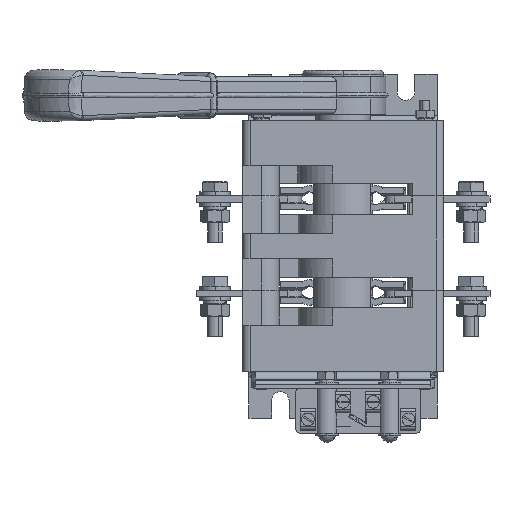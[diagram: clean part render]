
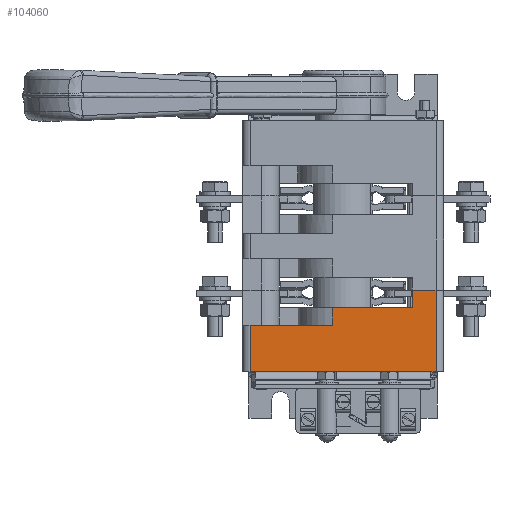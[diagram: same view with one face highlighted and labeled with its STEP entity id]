
A CAD part, left-side view. The second image highlights one B-rep face of the part: STEP entity #104060.
In plain terms, the highlighted planar face has unit normal (-1, 0, 0).
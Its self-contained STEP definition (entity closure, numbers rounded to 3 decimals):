
#103674 = CARTESIAN_POINT ( 'NONE',  ( -17.5, -37., 32.5 ) ) ;
#103738 = EDGE_LOOP ( 'NONE', ( #105353, #104031, #104077, #103782, #104084, #103879, #103785, #105028 ) ) ;
#103782 = ORIENTED_EDGE ( 'NONE', *, *, #104136, .T. ) ;
#103785 = ORIENTED_EDGE ( 'NONE', *, *, #103883, .F. ) ;
#103787 = VERTEX_POINT ( 'NONE', #106169 ) ;
#103858 = EDGE_CURVE ( 'NONE', #103874, #103865, #106421, .T. ) ;
#103863 = EDGE_CURVE ( 'NONE', #104050, #103787, #106429, .T. ) ;
#103865 = VERTEX_POINT ( 'NONE', #106413 ) ;
#103874 = VERTEX_POINT ( 'NONE', #106495 ) ;
#103879 = ORIENTED_EDGE ( 'NONE', *, *, #104045, .F. ) ;
#103883 = EDGE_CURVE ( 'NONE', #103787, #104006, #106585, .T. ) ;
#103958 = VERTEX_POINT ( 'NONE', #106760 ) ;
#103998 = VERTEX_POINT ( 'NONE', #106680 ) ;
#104001 = EDGE_CURVE ( 'NONE', #104042, #103998, #106665, .T. ) ;
#104006 = VERTEX_POINT ( 'NONE', #106668 ) ;
#104031 = ORIENTED_EDGE ( 'NONE', *, *, #104184, .T. ) ;
#104042 = VERTEX_POINT ( 'NONE', #106772 ) ;
#104045 = EDGE_CURVE ( 'NONE', #104006, #103874, #107021, .T. ) ;
#104050 = VERTEX_POINT ( 'NONE', #106989 ) ;
#104060 = ADVANCED_FACE ( 'NONE', ( #106923 ), #106968, .F. ) ;
#104077 = ORIENTED_EDGE ( 'NONE', *, *, #104001, .T. ) ;
#104084 = ORIENTED_EDGE ( 'NONE', *, *, #103858, .F. ) ;
#104136 = EDGE_CURVE ( 'NONE', #103998, #103865, #104591, .T. ) ;
#104184 = EDGE_CURVE ( 'NONE', #103958, #104042, #109370, .T. ) ;
#104186 = EDGE_CURVE ( 'NONE', #103958, #104050, #109504, .T. ) ;
#104591 = LINE ( 'NONE', #103674, #106041 ) ;
#105028 = ORIENTED_EDGE ( 'NONE', *, *, #103863, .F. ) ;
#105353 = ORIENTED_EDGE ( 'NONE', *, *, #104186, .F. ) ;
#106041 = VECTOR ( 'NONE', #107219, 1000. ) ;
#106169 = CARTESIAN_POINT ( 'NONE',  ( -17.5, 4.213, 25.5 ) ) ;
#106400 = DIRECTION ( 'NONE',  ( 0., 0., 1. ) ) ;
#106401 = VECTOR ( 'NONE', #106400, 1000. ) ;
#106403 = CARTESIAN_POINT ( 'NONE',  ( -17.5, 4.213, 18.5 ) ) ;
#106413 = CARTESIAN_POINT ( 'NONE',  ( -17.5, -37., 32.5 ) ) ;
#106414 = DIRECTION ( 'NONE',  ( 0., -1., 0. ) ) ;
#106417 = VECTOR ( 'NONE', #106414, 1000. ) ;
#106419 = CARTESIAN_POINT ( 'NONE',  ( -17.5, 40., 32.5 ) ) ;
#106421 = LINE ( 'NONE', #106419, #106417 ) ;
#106429 = LINE ( 'NONE', #106403, #106401 ) ;
#106495 = CARTESIAN_POINT ( 'NONE',  ( -17.5, -27.5, 32.5 ) ) ;
#106579 = DIRECTION ( 'NONE',  ( 0., -1., 0. ) ) ;
#106581 = VECTOR ( 'NONE', #106579, 1000. ) ;
#106583 = CARTESIAN_POINT ( 'NONE',  ( -17.5, 40., 25.5 ) ) ;
#106585 = LINE ( 'NONE', #106583, #106581 ) ;
#106660 = DIRECTION ( 'NONE',  ( 0., -1., 0. ) ) ;
#106662 = VECTOR ( 'NONE', #106660, 1000. ) ;
#106664 = CARTESIAN_POINT ( 'NONE',  ( -17.5, 40., 0. ) ) ;
#106665 = LINE ( 'NONE', #106664, #106662 ) ;
#106668 = CARTESIAN_POINT ( 'NONE',  ( -17.5, -27.5, 25.5 ) ) ;
#106680 = CARTESIAN_POINT ( 'NONE',  ( -17.5, -37., 0. ) ) ;
#106760 = CARTESIAN_POINT ( 'NONE',  ( -17.5, 37., 18.5 ) ) ;
#106772 = CARTESIAN_POINT ( 'NONE',  ( -17.5, 37., 0. ) ) ;
#106896 = DIRECTION ( 'NONE',  ( 0., 1., 0. ) ) ;
#106923 = FACE_OUTER_BOUND ( 'NONE', #103738, .T. ) ;
#106968 = PLANE ( 'NONE',  #107015 ) ;
#106989 = CARTESIAN_POINT ( 'NONE',  ( -17.5, 4.213, 18.5 ) ) ;
#106997 = DIRECTION ( 'NONE',  ( 1., 0., 0. ) ) ;
#106998 = CARTESIAN_POINT ( 'NONE',  ( -17.5, 40., 32.5 ) ) ;
#107000 = DIRECTION ( 'NONE',  ( 0., 0., 1. ) ) ;
#107003 = VECTOR ( 'NONE', #107000, 1000. ) ;
#107005 = CARTESIAN_POINT ( 'NONE',  ( -17.5, -27.5, 25.5 ) ) ;
#107015 = AXIS2_PLACEMENT_3D ( 'NONE', #106998, #106997, #106896 ) ;
#107021 = LINE ( 'NONE', #107005, #107003 ) ;
#107219 = DIRECTION ( 'NONE',  ( 0., 0., 1. ) ) ;
#109332 = DIRECTION ( 'NONE',  ( 0., 0., -1. ) ) ;
#109334 = VECTOR ( 'NONE', #109332, 1000. ) ;
#109368 = CARTESIAN_POINT ( 'NONE',  ( -17.5, 37., 32.5 ) ) ;
#109370 = LINE ( 'NONE', #109368, #109334 ) ;
#109496 = DIRECTION ( 'NONE',  ( 0., -1., 0. ) ) ;
#109499 = VECTOR ( 'NONE', #109496, 1000. ) ;
#109501 = CARTESIAN_POINT ( 'NONE',  ( -17.5, 40., 18.5 ) ) ;
#109504 = LINE ( 'NONE', #109501, #109499 ) ;
